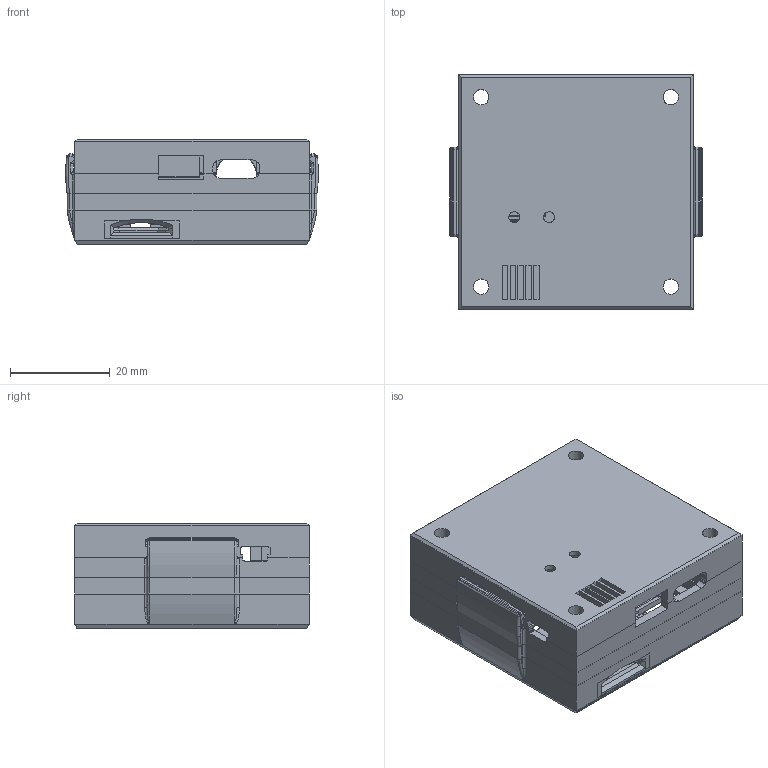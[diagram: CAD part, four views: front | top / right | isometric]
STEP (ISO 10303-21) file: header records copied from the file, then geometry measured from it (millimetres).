
FILE_DESCRIPTION(('FreeCAD Model'),'2;1');
FILE_NAME('Open CASCADE Shape Model','2026-02-15T17:55:02',('Author'),( ''),'Open CASCADE STEP processor 7.8','FreeCAD','Unknown');
FILE_SCHEMA(('AUTOMOTIVE_DESIGN { 1 0 10303 214 1 1 1 1 }'));
Length unit declared in the file: millimetre
Products named in the file (3): Housing_2_v10_cc1_3_3mm; RTK Postcard Side; Portability Shield Side
Assembly tree (2 placements, depth 2):
  Housing_2_v10_cc1_3_3mm
    RTK Postcard Side
    Portability Shield Side
Bounding box: 50.79 x 47.18 x 21.3 mm (x, y, z)
Volume: 14312.1 mm3; surface area: 16423.6 mm2
Topology: 2 solids, 2 shells, 704 faces, 1826 edges, 1115 vertices
Faces by surface type: plane 471, cylinder 174, bspline 21, sphere 16, torus 13, extrusion 6, cone 3
Full cylindrical faces by diameter (mm): 2.2 x2, 3.1 x7
Entity records: 22699 total; most frequent: CARTESIAN_POINT 5487, ORIENTED_EDGE 3650, DIRECTION 3423, EDGE_CURVE 1825, VECTOR 1423, LINE 1417, VERTEX_POINT 1115, AXIS2_PLACEMENT_3D 1000
